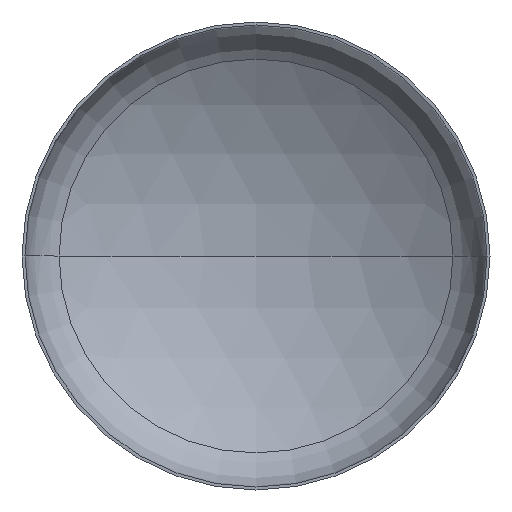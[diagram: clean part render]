
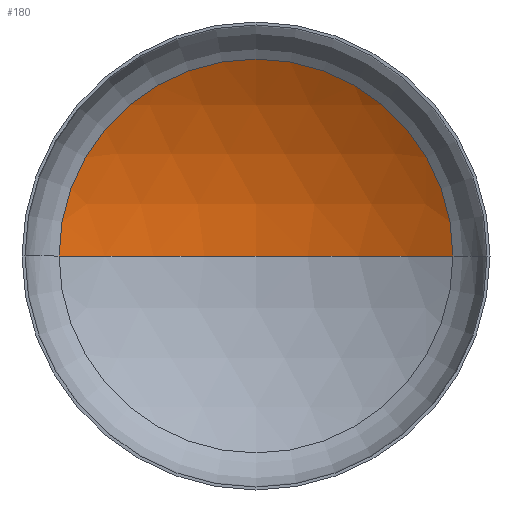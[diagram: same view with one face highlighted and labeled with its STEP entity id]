
A CAD part, front view. The second image highlights one B-rep face of the part: STEP entity #180.
In plain terms, the highlighted spherical face has radius 4400 mm.
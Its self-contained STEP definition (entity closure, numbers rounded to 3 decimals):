
#17 = SPHERICAL_SURFACE ( 'NONE', #39, 4400. ) ;
#21 = DIRECTION ( 'NONE',  ( 0., 0., -1. ) ) ;
#39 = AXIS2_PLACEMENT_3D ( 'NONE', #294, #21, #170 ) ;
#44 = EDGE_CURVE ( 'NONE', #126, #318, #141, .T. ) ;
#86 = EDGE_CURVE ( 'NONE', #152, #126, #195, .T. ) ;
#91 = DIRECTION ( 'NONE',  ( 1., 0., 0. ) ) ;
#93 = DIRECTION ( 'NONE',  ( 0., 0., 1. ) ) ;
#94 = CARTESIAN_POINT ( 'NONE',  ( 0., -2913.429, 0. ) ) ;
#102 = DIRECTION ( 'NONE',  ( 0., 0., -1. ) ) ;
#107 = EDGE_CURVE ( 'NONE', #152, #318, #120, .T. ) ;
#120 = CIRCLE ( 'NONE', #339, 4400. ) ;
#122 = CARTESIAN_POINT ( 'NONE',  ( 0., -2913.429, 0. ) ) ;
#126 = VERTEX_POINT ( 'NONE', #202 ) ;
#128 = DIRECTION ( 'NONE',  ( -1., 0., 0. ) ) ;
#141 = CIRCLE ( 'NONE', #219, 2314.487 ) ;
#152 = VERTEX_POINT ( 'NONE', #331 ) ;
#161 = DIRECTION ( 'NONE',  ( 1., 0., 0. ) ) ;
#163 = DIRECTION ( 'NONE',  ( 0., -1., 0. ) ) ;
#168 = CARTESIAN_POINT ( 'NONE',  ( 0., 828.649, 0. ) ) ;
#170 = DIRECTION ( 'NONE',  ( -1., 0., 0. ) ) ;
#180 = ADVANCED_FACE ( 'NONE', ( #261 ), #17, .F. ) ;
#195 = CIRCLE ( 'NONE', #296, 4400. ) ;
#202 = CARTESIAN_POINT ( 'NONE',  ( 2314.487, 828.649, 0. ) ) ;
#219 = AXIS2_PLACEMENT_3D ( 'NONE', #168, #163, #161 ) ;
#245 = ORIENTED_EDGE ( 'NONE', *, *, #107, .F. ) ;
#261 = FACE_OUTER_BOUND ( 'NONE', #351, .T. ) ;
#294 = CARTESIAN_POINT ( 'NONE',  ( 0., -2913.429, 0. ) ) ;
#296 = AXIS2_PLACEMENT_3D ( 'NONE', #122, #102, #128 ) ;
#315 = ORIENTED_EDGE ( 'NONE', *, *, #86, .T. ) ;
#318 = VERTEX_POINT ( 'NONE', #396 ) ;
#331 = CARTESIAN_POINT ( 'NONE',  ( 0., 1486.571, 0. ) ) ;
#339 = AXIS2_PLACEMENT_3D ( 'NONE', #94, #93, #91 ) ;
#351 = EDGE_LOOP ( 'NONE', ( #245, #315, #408 ) ) ;
#396 = CARTESIAN_POINT ( 'NONE',  ( -2314.487, 828.649, 0. ) ) ;
#408 = ORIENTED_EDGE ( 'NONE', *, *, #44, .T. ) ;
